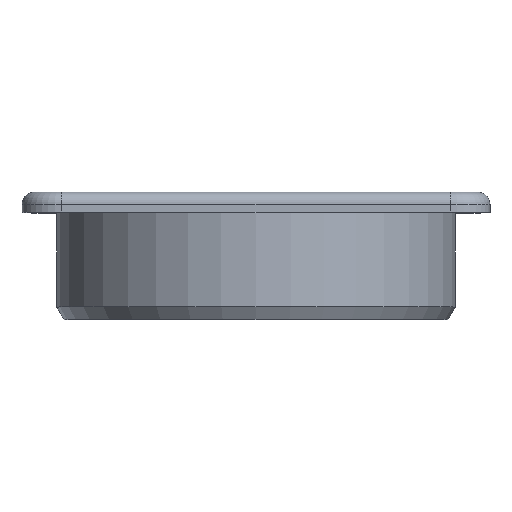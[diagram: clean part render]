
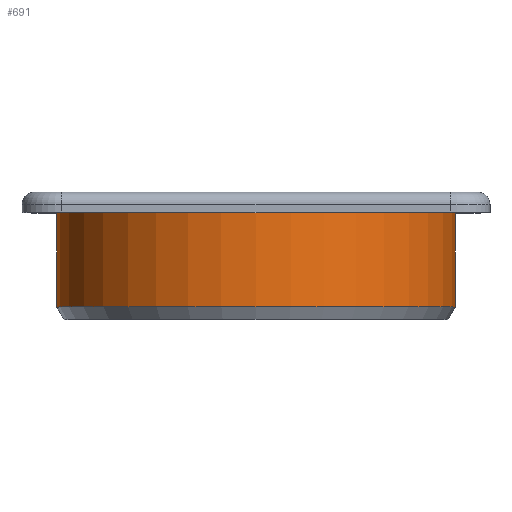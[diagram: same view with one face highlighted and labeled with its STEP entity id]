
A CAD part, top view. The second image highlights one B-rep face of the part: STEP entity #691.
In plain terms, the highlighted cylindrical face has radius 40 mm (diameter 80 mm), a partial arc.
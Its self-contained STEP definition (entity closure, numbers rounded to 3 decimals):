
#209=CARTESIAN_POINT('',(0.,-20.5,0.));
#210=DIRECTION('',(0.,-1.,0.));
#211=DIRECTION('',(1.,0.,0.));
#212=AXIS2_PLACEMENT_3D('',#209,#210,#211);
#214=DIRECTION('',(0.,-1.,0.));
#215=VECTOR('',#214,18.9);
#216=CARTESIAN_POINT('',(-40.,-1.6,0.));
#217=LINE('',#216,#215);
#218=CARTESIAN_POINT('',(0.,-1.6,0.));
#219=DIRECTION('',(0.,1.,0.));
#220=DIRECTION('',(-1.,0.,0.));
#221=AXIS2_PLACEMENT_3D('',#218,#219,#220);
#223=DIRECTION('',(0.,-1.,0.));
#224=VECTOR('',#223,18.9);
#225=CARTESIAN_POINT('',(40.,-1.6,0.));
#226=LINE('',#225,#224);
#279=CARTESIAN_POINT('',(-40.,-1.6,0.));
#280=CARTESIAN_POINT('',(40.,-1.6,0.));
#281=VERTEX_POINT('',#279);
#282=VERTEX_POINT('',#280);
#303=CARTESIAN_POINT('',(-40.,-20.5,0.));
#304=CARTESIAN_POINT('',(40.,-20.5,0.));
#305=VERTEX_POINT('',#303);
#306=VERTEX_POINT('',#304);
#677=CARTESIAN_POINT('',(0.,1.15,0.));
#678=DIRECTION('',(0.,-1.,0.));
#679=DIRECTION('',(-1.,0.,0.));
#680=AXIS2_PLACEMENT_3D('',#677,#678,#679);
#681=CYLINDRICAL_SURFACE('',#680,40.);
#682=ORIENTED_EDGE('',*,*,#671,.T.);
#684=ORIENTED_EDGE('',*,*,#683,.F.);
#686=ORIENTED_EDGE('',*,*,#685,.T.);
#688=ORIENTED_EDGE('',*,*,#687,.T.);
#689=EDGE_LOOP('',(#682,#684,#686,#688));
#690=FACE_OUTER_BOUND('',#689,.F.);
#691=ADVANCED_FACE('',(#690),#681,.T.);
#213=CIRCLE('',#212,40.);
#222=CIRCLE('',#221,40.);
#671=EDGE_CURVE('',#306,#305,#213,.T.);
#683=EDGE_CURVE('',#281,#305,#217,.T.);
#685=EDGE_CURVE('',#281,#282,#222,.T.);
#687=EDGE_CURVE('',#282,#306,#226,.T.);
